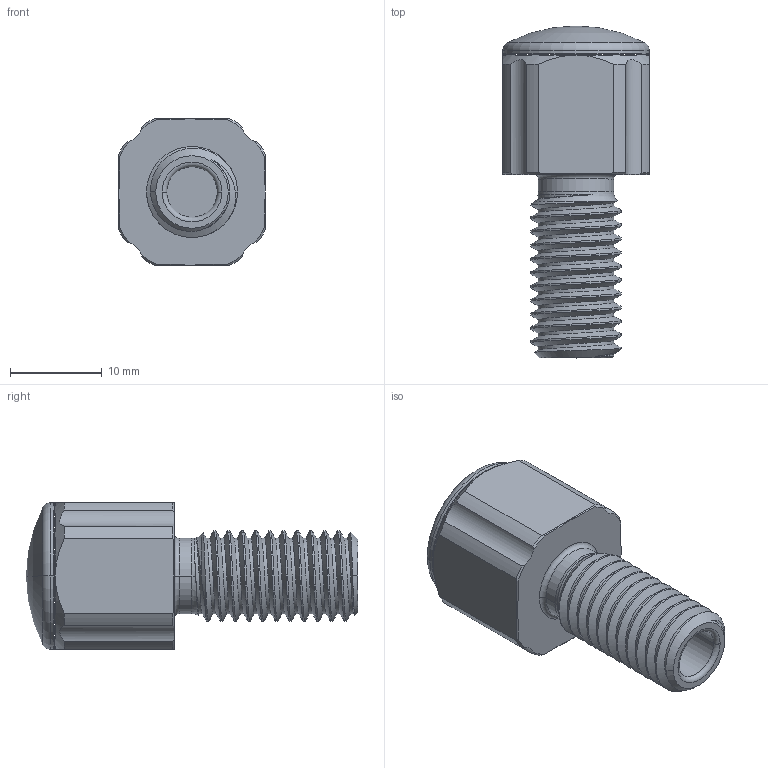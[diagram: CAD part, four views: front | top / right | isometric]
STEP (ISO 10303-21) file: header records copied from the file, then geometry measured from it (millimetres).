
FILE_DESCRIPTION (( 'STEP AP203' ), '1' );
FILE_NAME ('PUBLIC-INDICATOR-M10-XXX_RevX02.STEP', '2022-08-26T22:52:48', ( '' ), ( '' ), 'SwSTEP 2.0', 'SolidWorks 2022', '' );
FILE_SCHEMA (( 'CONFIG_CONTROL_DESIGN' ));
Length unit declared in the file: millimetre
Products named in the file (1): PUBLIC-INDICATOR-M10-XXX_RevX02
Bounding box: 16 x 36.18 x 16 mm (x, y, z)
Volume: 4138 mm3; surface area: 2814.7 mm2
Topology: 2 solids, 2 shells, 94 faces, 245 edges, 155 vertices
Faces by surface type: cylinder 43, cone 18, plane 17, torus 11, bspline 3, sphere 2
Entity records: 5880 total; most frequent: CARTESIAN_POINT 3721, ORIENTED_EDGE 484, DIRECTION 399, EDGE_CURVE 242, AXIS2_PLACEMENT_3D 168, VERTEX_POINT 154, EDGE_LOOP 96, ADVANCED_FACE 94
